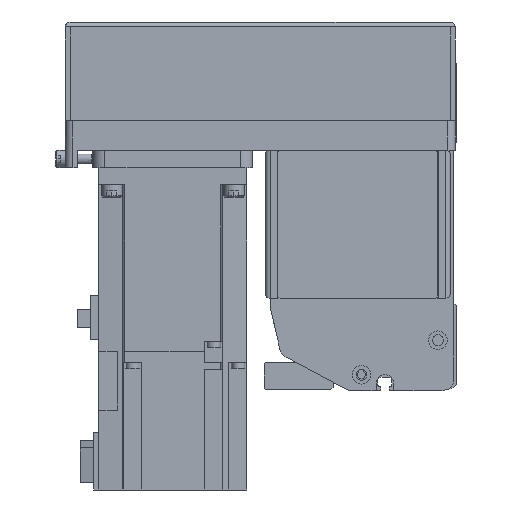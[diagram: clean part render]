
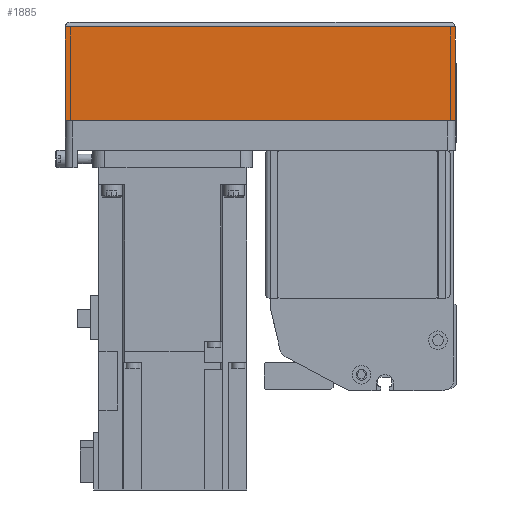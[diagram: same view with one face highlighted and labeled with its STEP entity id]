
A CAD part, left-side view. The second image highlights one B-rep face of the part: STEP entity #1885.
In plain terms, the highlighted planar face has unit normal (-1, 0, 0) as drawn and (0, 1, 0) by its records, which use the part's own axes.
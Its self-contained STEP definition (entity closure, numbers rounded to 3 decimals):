
#1885 = ADVANCED_FACE( '', ( #4427 ), #4428, .T. );
#4427 = FACE_OUTER_BOUND( '', #7734, .T. );
#4428 = PLANE( '', #7735 );
#7734 = EDGE_LOOP( '', ( #13010, #13011, #13012, #13013 ) );
#7735 = AXIS2_PLACEMENT_3D( '', #13014, #13015, #13016 );
#13010 = ORIENTED_EDGE( '', *, *, #20443, .F. );
#13011 = ORIENTED_EDGE( '', *, *, #18933, .F. );
#13012 = ORIENTED_EDGE( '', *, *, #19794, .T. );
#13013 = ORIENTED_EDGE( '', *, *, #20444, .T. );
#13014 = CARTESIAN_POINT( '', ( -158., 39., -50. ) );
#13015 = DIRECTION( '', ( 0., 1., 0. ) );
#13016 = DIRECTION( '', ( 0., 0., 1. ) );
#18933 = EDGE_CURVE( '', #22564, #22567, #22568, .T. );
#19794 = EDGE_CURVE( '', #22564, #24039, #24042, .T. );
#20443 = EDGE_CURVE( '', #22567, #25055, #25056, .T. );
#20444 = EDGE_CURVE( '', #24039, #25055, #25057, .T. );
#22564 = VERTEX_POINT( '', #27898 );
#22567 = VERTEX_POINT( '', #27901 );
#22568 = LINE( '', #27902, #27903 );
#24039 = VERTEX_POINT( '', #30045 );
#24042 = LINE( '', #30049, #30050 );
#25055 = VERTEX_POINT( '', #31520 );
#25056 = LINE( '', #31521, #31522 );
#25057 = LINE( '', #31523, #31524 );
#27898 = CARTESIAN_POINT( '', ( -158., 39., -50. ) );
#27901 = CARTESIAN_POINT( '', ( 0., 39., -50. ) );
#27902 = CARTESIAN_POINT( '', ( -158., 39., -50. ) );
#27903 = VECTOR( '', #35199, 1000. );
#30045 = CARTESIAN_POINT( '', ( -158., 39., -12.1 ) );
#30049 = CARTESIAN_POINT( '', ( -158., 39., -50. ) );
#30050 = VECTOR( '', #36322, 1000. );
#31520 = CARTESIAN_POINT( '', ( 0., 39., -12.1 ) );
#31521 = CARTESIAN_POINT( '', ( 0., 39., -50. ) );
#31522 = VECTOR( '', #37104, 1000. );
#31523 = CARTESIAN_POINT( '', ( -158., 39., -12.1 ) );
#31524 = VECTOR( '', #37105, 1000. );
#35199 = DIRECTION( '', ( 1., 0., 0. ) );
#36322 = DIRECTION( '', ( 0., 0., 1. ) );
#37104 = DIRECTION( '', ( 0., 0., 1. ) );
#37105 = DIRECTION( '', ( 1., 0., 0. ) );
